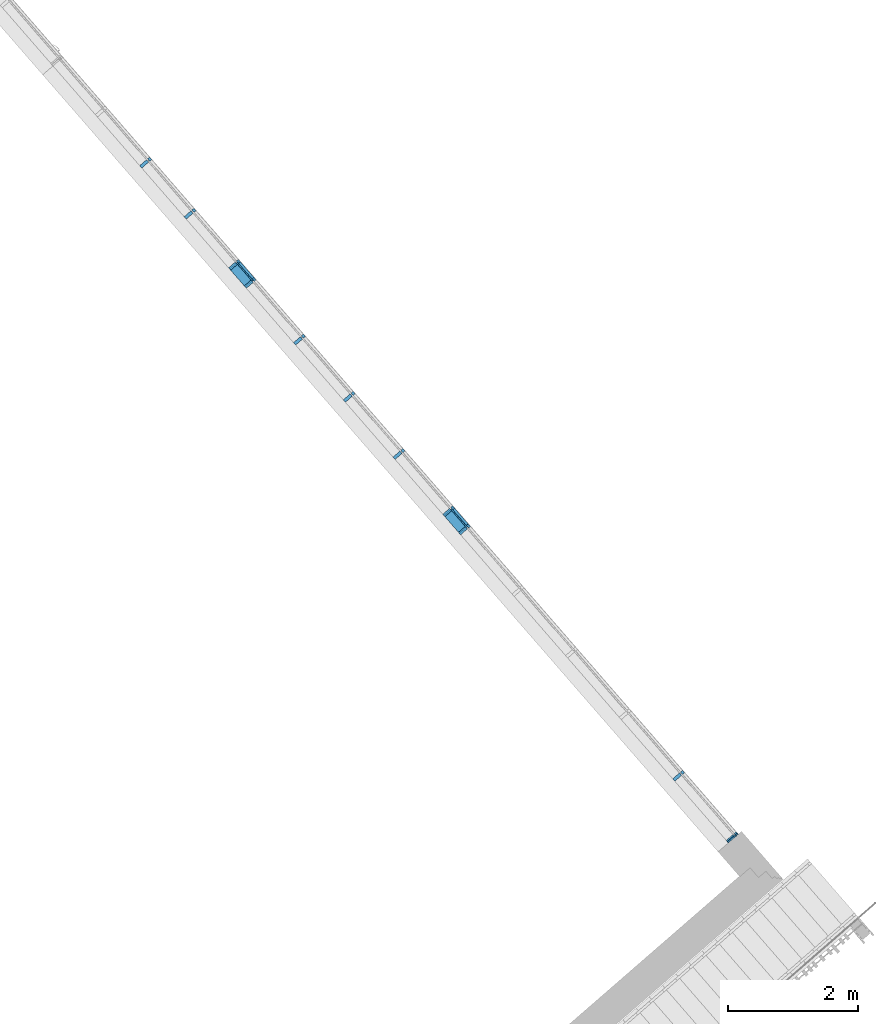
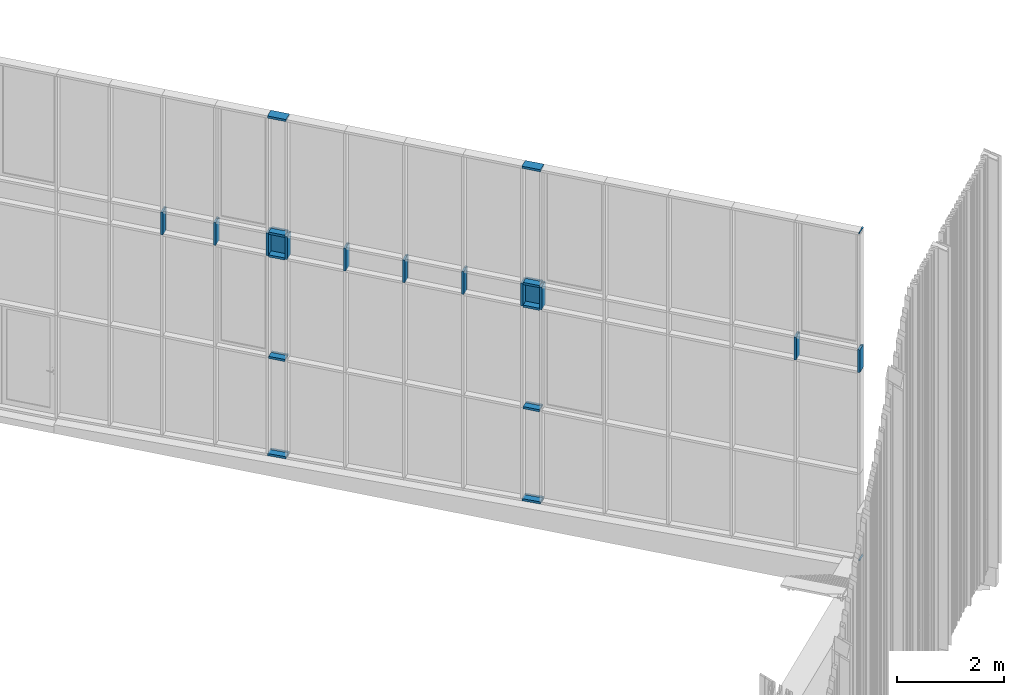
# One storey, part 68 of 390: 26 discrete accessories, 1 element without a shape of its own.
"""IFC2X3 building model written with IfcOpenShell, lengths in millimetres."""

from ifc_helpers import new_model, entity, si_unit, converted_unit, derived_unit, money_unit, direction, frame, origin_with_axes, place, context, subcontext, project, spatial, polyline, outline, extrude, clip, halfspace, material, material_list, type_object, element, aggregate, save


model = new_model("IFC2X3")

# Units and contexts
model_context = context("Model", 3, precision=1e-05, world=origin_with_axes(), true_north=direction((0.0, 1.0)))
body_context = subcontext(model_context, "Body", "Model", "MODEL_VIEW")
ifc_project = project(units=[si_unit("LENGTHUNIT", "METRE", prefix="MILLI"), si_unit("AREAUNIT", "SQUARE_METRE"), si_unit("VOLUMEUNIT", "CUBIC_METRE"), converted_unit("PLANEANGLEUNIT", "DEGREE", entity("IfcPlaneAngleMeasure", 0.0174532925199), si_unit("PLANEANGLEUNIT", "RADIAN"), dimensions=[0, 0, 0, 0, 0, 0, 0]), si_unit("SOLIDANGLEUNIT", "STERADIAN"), money_unit("EUR"), converted_unit("TIMEUNIT", "Year", entity("IfcTimeMeasure", 31556926.0), si_unit("TIMEUNIT", "SECOND"), dimensions=[0, 0, 1, 0, 0, 0, 0]), si_unit("MASSUNIT", "GRAM", prefix="KILO"), si_unit("THERMODYNAMICTEMPERATUREUNIT", "DEGREE_CELSIUS"), si_unit("LUMINOUSINTENSITYUNIT", "LUMEN"), si_unit("ENERGYUNIT", "JOULE", prefix="MEGA"), derived_unit("THERMALCONDUCTANCEUNIT", [(si_unit("POWERUNIT", "WATT"), 1), (si_unit("LENGTHUNIT", "METRE"), -1), (si_unit("THERMODYNAMICTEMPERATUREUNIT", "KELVIN"), -1)]), derived_unit("SPECIFICHEATCAPACITYUNIT", [(si_unit("ENERGYUNIT", "JOULE"), 1), (si_unit("MASSUNIT", "GRAM", prefix="KILO"), -1), (si_unit("THERMODYNAMICTEMPERATUREUNIT", "KELVIN"), -1)]), derived_unit("MASSDENSITYUNIT", [(si_unit("MASSUNIT", "GRAM", prefix="KILO"), 1), (si_unit("VOLUMEUNIT", "CUBIC_METRE"), -1)])], contexts=[model_context])

# Site, building, storey
site_placement = place(None, origin_with_axes())
site = spatial("IfcSite", under=ifc_project, at=site_placement, Name="Site", CompositionType="ELEMENT")
building_placement = place(site_placement, origin_with_axes())
building = spatial("IfcBuilding", under=site, at=building_placement, Name="Building", CompositionType="ELEMENT")
storey_placement = place(building_placement, origin_with_axes())
storey = spatial("IfcBuildingStorey", under=building, at=storey_placement, Name="1 korrus", CompositionType="ELEMENT", Elevation=0.0)

# Curtain wall, discrete accessories
curtain_wall_type = type_object("IfcCurtainWallType", Name="KLF-17", PredefinedType="NOTDEFINED")
curtain_wall_placement = place(storey_placement, frame((175630.823927, 104534.758561, -0.000216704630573), z_axis=(0.0, 0.0, 1.0), x_axis=(1.0, 0.0, 0.0)))
curtain_wall = element("IfcCurtainWall", 1, at=curtain_wall_placement, inside=storey, type_object=curtain_wall_type, Name="Klaasfassaad")
ifc_material_1 = material(Name="Klaas")
discrete_accessory_type_1 = type_object("IfcDiscreteAccessoryType", Name="370 x 520 x 20")
discrete_accessory_1_placement = place(curtain_wall_placement, frame((-1361.32248515, 1566.02237896, 4980.0002167), z_axis=(0.0, 0.0, 1.0), x_axis=(-0.65605902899, 0.754709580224, 0.0)))
discrete_accessory_1 = element("IfcDiscreteAccessory", 2, at=discrete_accessory_1_placement, type_object=discrete_accessory_type_1, material=ifc_material_1, Name="KLF-17 klaaspakett", context=body_context, shape_type="SweptSolid", body=[
    extrude(outline(polyline([(-185.000003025, -260.000003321), (184.99999934, -260.000003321), (184.99999934, 260.000003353), (-185.000003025, 260.000003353), (-185.000003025, -260.000003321)])), frame((0.0, -9.99999999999, 0.0), z_axis=(0.0, 1.0, 0.0), x_axis=(1.0, 0.0, 0.0)), (0.0, 0.0, 1.0), 20.0),
])
discrete_accessory_2_placement = place(curtain_wall_placement, frame((-4667.85999126, 5369.75866329, 4980.0002167), z_axis=(0.0, 0.0, 1.0), x_axis=(-0.65605902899, 0.754709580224, 0.0)))
discrete_accessory_2 = element("IfcDiscreteAccessory", 3, at=discrete_accessory_2_placement, type_object=discrete_accessory_type_1, material=ifc_material_1, Name="KLF-17 klaaspakett", context=body_context, shape_type="SweptSolid", body=[
    extrude(outline(polyline([(-185.000003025, -260.000003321), (184.99999934, -260.000003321), (184.99999934, 260.000003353), (-185.000003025, 260.000003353), (-185.000003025, -260.000003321)])), frame((0.0, -9.99999999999, 0.0), z_axis=(0.0, 1.0, 0.0), x_axis=(1.0, 0.0, 0.0)), (0.0, 0.0, 1.0), 20.0),
])
discrete_accessory_type_2 = type_object("IfcDiscreteAccessoryType", Name="50 x 200")
discrete_accessory_3_placement = place(curtain_wall_placement, frame((-1482.69340552, 1705.64365131, 7915.00660752), z_axis=(0.65605902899, -0.754709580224, 0.0), x_axis=(0.0, 0.0, 1.0)))
discrete_accessory_3 = element("IfcDiscreteAccessory", 4, at=discrete_accessory_3_placement, type_object=discrete_accessory_type_2, Name="KLF-17 profiil", context=body_context, shape_type="SweptSolid", body=[
    extrude(outline(polyline([(9.99999999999, 25.0), (-10.0, 25.0), (-10.0, 0.0), (9.99999999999, 0.0), (9.99999999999, 25.0)])), frame((0.0, 0.0, 0.0), z_axis=(0.0, 0.0, 1.0), x_axis=(0.0, 1.0, 0.0)), (0.0, 0.0, 1.0), 370.0),
    extrude(outline(polyline([(150.0, 50.0), (9.99999999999, 50.0), (9.99999999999, 0.0), (150.0, 0.0), (150.0, 50.0)])), frame((0.0, 0.0, 0.0), z_axis=(0.0, 0.0, 1.0), x_axis=(0.0, 1.0, 0.0)), (0.0, 0.0, 1.0), 370.0),
    extrude(outline(polyline([(-50.0, 0.0), (-10.0, 0.0), (-10.0, 50.0), (-50.0, 50.0), (-50.0, 0.0)])), frame((0.0, 0.0, 0.0), z_axis=(0.0, 0.0, 1.0), x_axis=(0.0, 1.0, 0.0)), (0.0, 0.0, 1.0), 370.0),
])
discrete_accessory_4_placement = place(curtain_wall_placement, frame((-4789.23091162, 5509.37993563, 7915.00660752), z_axis=(0.65605902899, -0.754709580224, 0.0), x_axis=(0.0, 0.0, 1.0)))
discrete_accessory_4 = element("IfcDiscreteAccessory", 5, at=discrete_accessory_4_placement, type_object=discrete_accessory_type_2, Name="KLF-17 profiil", context=body_context, shape_type="SweptSolid", body=[
    extrude(outline(polyline([(10.0, 25.0), (-9.99999999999, 25.0), (-9.99999999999, 0.0), (10.0, 0.0), (10.0, 25.0)])), frame((0.0, 0.0, 0.0), z_axis=(0.0, 0.0, 1.0), x_axis=(0.0, 1.0, 0.0)), (0.0, 0.0, 1.0), 370.0),
    extrude(outline(polyline([(150.0, 50.0), (10.0, 50.0), (10.0, 0.0), (150.0, 0.0), (150.0, 50.0)])), frame((0.0, 0.0, 0.0), z_axis=(0.0, 0.0, 1.0), x_axis=(0.0, 1.0, 0.0)), (0.0, 0.0, 1.0), 370.0),
    extrude(outline(polyline([(-50.0, 0.0), (-9.99999999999, 0.0), (-9.99999999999, 50.0), (-50.0, 50.0), (-50.0, 0.0)])), frame((0.0, 0.0, 0.0), z_axis=(0.0, 0.0, 1.0), x_axis=(0.0, 1.0, 0.0)), (0.0, 0.0, 1.0), 370.0),
])
ifc_material_2 = material(Name="Aluminium MUST")
ifc_material_list = material_list([ifc_material_2, ifc_material_2])
discrete_accessory_5_placement = place(curtain_wall_placement, frame((-1482.69340552, 1705.64365131, 5240.0002167), z_axis=(0.65605902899, -0.754709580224, 0.0), x_axis=(0.0, 0.0, 1.0)))
discrete_accessory_5 = element("IfcDiscreteAccessory", 6, at=discrete_accessory_5_placement, type_object=discrete_accessory_type_2, material=ifc_material_list, Name="KLF-17 profiil", context=body_context, shape_type="SweptSolid", body=[
    extrude(outline(polyline([(150.0, -25.0), (150.0, 25.0), (9.99999999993, 25.0), (9.99999999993, -25.0), (150.0, -25.0)])), frame((0.0, 0.0, 25.0), z_axis=(0.0, 0.0, 1.0), x_axis=(0.0, 1.0, 0.0)), (0.0, 0.0, 1.0), 320.0),
    extrude(outline(polyline([(-50.0, 25.0), (-50.0, -25.0), (-10.0, -25.0), (-10.0, 25.0), (-50.0, 25.0)])), frame((0.0, 0.0, 25.0), z_axis=(0.0, 0.0, 1.0), x_axis=(0.0, 1.0, 0.0)), (0.0, 0.0, 1.0), 320.0),
])
discrete_accessory_6_placement = place(curtain_wall_placement, frame((-4789.23091162, 5509.37993563, 5240.0002167), z_axis=(0.65605902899, -0.754709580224, 0.0), x_axis=(0.0, 0.0, 1.0)))
discrete_accessory_6 = element("IfcDiscreteAccessory", 7, at=discrete_accessory_6_placement, type_object=discrete_accessory_type_2, material=ifc_material_list, Name="KLF-17 profiil", context=body_context, shape_type="SweptSolid", body=[
    extrude(outline(polyline([(150.0, -25.0), (150.0, 25.0), (9.99999999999, 25.0), (9.99999999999, -25.0), (150.0, -25.0)])), frame((0.0, 0.0, 25.0), z_axis=(0.0, 0.0, 1.0), x_axis=(0.0, 1.0, 0.0)), (0.0, 0.0, 1.0), 320.0),
    extrude(outline(polyline([(-50.0, 25.0), (-50.0, -25.0), (-9.99999999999, -25.0), (-9.99999999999, 25.0), (-50.0, 25.0)])), frame((0.0, 0.0, 25.0), z_axis=(0.0, 0.0, 1.0), x_axis=(0.0, 1.0, 0.0)), (0.0, 0.0, 1.0), 320.0),
])
discrete_accessory_7_placement = place(curtain_wall_placement, frame((2893.22031784, -3328.26924879, 421.428411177), z_axis=(0.655880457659, -0.754504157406, 0.0233302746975), x_axis=(-0.0153060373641, 0.0176075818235, 0.999727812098)))
discrete_accessory_7 = element("IfcDiscreteAccessory", 8, at=discrete_accessory_7_placement, type_object=discrete_accessory_type_2, Name="KLF-17 profiil", context=body_context, shape_type="Clipping", body=[
    clip(extrude(outline(polyline([(10.0, -25.0), (10.0, 0.0), (-9.99999999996, 0.0), (-9.99999999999, -25.0), (10.0, -25.0)])), frame((0.0, 0.0, -4.36702052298e-05), z_axis=(0.0, 0.0, 1.0), x_axis=(0.0, 1.0, 0.0)), (0.0, 0.0, 1.0), 24.981860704), halfspace(frame((12.4875086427, 0.0, 12.7823248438), z_axis=(-0.698809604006, 0.0, -0.715307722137), x_axis=(0.0, 1.0, 0.0)), True)),
    clip(extrude(outline(polyline([(9.99999999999, -25.5716546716), (150.0, -25.5716546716), (150.0, 0.0), (10.0, 0.0), (9.99999999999, -25.5716546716)])), frame((0.0, 0.0, -4.36701910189e-05), z_axis=(0.0, 0.0, 1.0), x_axis=(0.0, 1.0, 0.0)), (0.0, 0.0, 1.0), 24.9818607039), halfspace(frame((12.4875086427, 0.0, 12.7823248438), z_axis=(-0.698809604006, 0.0, -0.715307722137), x_axis=(0.0, 1.0, 0.0)), True)),
    clip(extrude(outline(polyline([(-9.99999999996, -25.5716546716), (-9.99999999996, 0.0), (-50.0, 0.0), (-50.0, -25.5716546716), (-9.99999999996, -25.5716546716)])), frame((0.0, 0.0, -4.36701910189e-05), z_axis=(0.0, 0.0, 1.0), x_axis=(0.0, 1.0, 0.0)), (0.0, 0.0, 1.0), 24.9818607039), halfspace(frame((12.4875086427, 0.0, 12.7823248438), z_axis=(-0.698809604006, 0.0, -0.715307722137), x_axis=(0.0, 1.0, 0.0)), True)),
])
discrete_accessory_8_placement = place(curtain_wall_placement, frame((-4789.23091162, 5509.37993563, 148.137241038), z_axis=(0.655880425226, -0.754504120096, 0.0233323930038), x_axis=(-0.0153074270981, 0.0176091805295, 0.999727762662)))
discrete_accessory_8 = element("IfcDiscreteAccessory", 9, at=discrete_accessory_8_placement, type_object=discrete_accessory_type_2, Name="KLF-17 profiil", context=body_context, shape_type="SweptSolid", body=[
    extrude(outline(polyline([(9.99999999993, -25.0), (9.99999999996, 0.0), (-10.0, 0.0), (-9.99999999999, -25.0), (9.99999999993, -25.0)])), frame((0.0, 0.0, -1.76500698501e-05), z_axis=(0.0, 0.0, 1.0), x_axis=(0.0, 1.0, 0.0)), (0.0, 0.0, 1.0), 370.100787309),
    extrude(outline(polyline([(150.0, -50.0), (150.0, 0.0), (9.99999999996, 0.0), (9.99999999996, -50.0), (150.0, -50.0)])), frame((0.0, 0.0, -1.76500556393e-05), z_axis=(0.0, 0.0, 1.0), x_axis=(0.0, 1.0, 0.0)), (0.0, 0.0, 1.0), 370.100787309),
    extrude(outline(polyline([(-50.0, 0.0), (-50.0, -50.0), (-10.0, -50.0), (-10.0, 0.0), (-50.0, 0.0)])), frame((0.0, 0.0, -1.76500556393e-05), z_axis=(0.0, 0.0, 1.0), x_axis=(0.0, 1.0, 0.0)), (0.0, 0.0, 1.0), 370.100787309),
])
discrete_accessory_9_placement = place(curtain_wall_placement, frame((-1482.69340552, 1705.64365131, 2400.0002167), z_axis=(0.65605902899, -0.754709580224, 0.0), x_axis=(0.0, 0.0, 1.0)))
discrete_accessory_9 = element("IfcDiscreteAccessory", 10, at=discrete_accessory_9_placement, type_object=discrete_accessory_type_2, material=ifc_material_list, Name="KLF-17 profiil", context=body_context, shape_type="SweptSolid", body=[
    extrude(outline(polyline([(150.0, -25.0), (150.0, 25.0), (9.99999999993, 25.0), (9.99999999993, -25.0), (150.0, -25.0)])), frame((0.0, 0.0, 25.0), z_axis=(0.0, 0.0, 1.0), x_axis=(0.0, 1.0, 0.0)), (0.0, 0.0, 1.0), 320.0),
    extrude(outline(polyline([(-50.0, 25.0), (-50.0, -25.0), (-10.0, -25.0), (-10.0, 25.0), (-50.0, 25.0)])), frame((0.0, 0.0, 25.0), z_axis=(0.0, 0.0, 1.0), x_axis=(0.0, 1.0, 0.0)), (0.0, 0.0, 1.0), 320.0),
])
discrete_accessory_10_placement = place(curtain_wall_placement, frame((-4789.23091162, 5509.37993563, 2400.0002167), z_axis=(0.65605902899, -0.754709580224, 0.0), x_axis=(0.0, 0.0, 1.0)))
discrete_accessory_10 = element("IfcDiscreteAccessory", 11, at=discrete_accessory_10_placement, type_object=discrete_accessory_type_2, material=ifc_material_list, Name="KLF-17 profiil", context=body_context, shape_type="SweptSolid", body=[
    extrude(outline(polyline([(150.0, -25.0), (150.0, 25.0), (9.99999999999, 25.0), (9.99999999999, -25.0), (150.0, -25.0)])), frame((0.0, 0.0, 25.0), z_axis=(0.0, 0.0, 1.0), x_axis=(0.0, 1.0, 0.0)), (0.0, 0.0, 1.0), 320.0),
    extrude(outline(polyline([(-50.0, 25.0), (-50.0, -25.0), (-9.99999999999, -25.0), (-9.99999999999, 25.0), (-50.0, 25.0)])), frame((0.0, 0.0, 25.0), z_axis=(0.0, 0.0, 1.0), x_axis=(0.0, 1.0, 0.0)), (0.0, 0.0, 1.0), 320.0),
])
discrete_accessory_11_placement = place(curtain_wall_placement, frame((-1482.69340552, 1705.64365131, 4720.0002167), z_axis=(0.65605902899, -0.754709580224, 0.0), x_axis=(0.0, 0.0, 1.0)))
discrete_accessory_11 = element("IfcDiscreteAccessory", 12, at=discrete_accessory_11_placement, type_object=discrete_accessory_type_2, material=ifc_material_list, Name="KLF-17 profiil", context=body_context, shape_type="SweptSolid", body=[
    extrude(outline(polyline([(150.0, -25.0), (150.0, 25.0), (9.99999999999, 25.0), (9.99999999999, -25.0), (150.0, -25.0)])), frame((0.0, 0.0, 25.0), z_axis=(0.0, 0.0, 1.0), x_axis=(0.0, 1.0, 0.0)), (0.0, 0.0, 1.0), 320.0),
    extrude(outline(polyline([(-50.0000000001, 25.0), (-50.0000000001, -25.0), (-10.0, -25.0), (-10.0, 25.0), (-50.0000000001, 25.0)])), frame((0.0, 0.0, 25.0), z_axis=(0.0, 0.0, 1.0), x_axis=(0.0, 1.0, 0.0)), (0.0, 0.0, 1.0), 320.0),
])
discrete_accessory_12_placement = place(curtain_wall_placement, frame((-4789.23091162, 5509.37993563, 4720.0002167), z_axis=(0.65605902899, -0.754709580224, 0.0), x_axis=(0.0, 0.0, 1.0)))
discrete_accessory_12 = element("IfcDiscreteAccessory", 13, at=discrete_accessory_12_placement, type_object=discrete_accessory_type_2, material=ifc_material_list, Name="KLF-17 profiil", context=body_context, shape_type="SweptSolid", body=[
    extrude(outline(polyline([(150.0, -25.0), (150.0, 25.0), (9.99999999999, 25.0), (9.99999999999, -25.0), (150.0, -25.0)])), frame((0.0, 0.0, 25.0), z_axis=(0.0, 0.0, 1.0), x_axis=(0.0, 1.0, 0.0)), (0.0, 0.0, 1.0), 320.0),
    extrude(outline(polyline([(-50.0, 25.0), (-50.0, -25.0), (-9.99999999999, -25.0), (-9.99999999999, 25.0), (-50.0, 25.0)])), frame((0.0, 0.0, 25.0), z_axis=(0.0, 0.0, 1.0), x_axis=(0.0, 1.0, 0.0)), (0.0, 0.0, 1.0), 320.0),
])
discrete_accessory_13_placement = place(curtain_wall_placement, frame((-6160.39428221, 7086.7229583, 4720.0002167), z_axis=(0.0, 0.0, 1.0), x_axis=(-0.65605902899, 0.754709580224, 0.0)))
discrete_accessory_13 = element("IfcDiscreteAccessory", 14, at=discrete_accessory_13_placement, type_object=discrete_accessory_type_2, material=ifc_material_list, Name="KLF-17 profiil", context=body_context, shape_type="SweptSolid", body=[
    extrude(outline(polyline([(-129.607912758, -79.5411148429), (-96.8049613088, -117.276593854), (8.85437992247, -25.4283297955), (-23.948571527, 12.3071492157), (-129.607912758, -79.5411148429)])), frame((0.0, 0.0, 0.0), z_axis=(0.0, 0.0, 1.0), x_axis=(-0.65605902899, -0.754709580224, 0.0)), (0.0, 0.0, 1.0), 520.0),
    extrude(outline(polyline([(54.1369547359, 13.9352119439), (21.3340032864, 51.670690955), (-8.8543799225, 25.4283297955), (23.948571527, -12.3071492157), (54.1369547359, 13.9352119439)])), frame((0.0, 0.0, 0.0), z_axis=(0.0, 0.0, 1.0), x_axis=(-0.65605902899, -0.754709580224, 0.0)), (0.0, 0.0, 1.0), 520.0),
])
discrete_accessory_14_placement = place(curtain_wall_placement, frame((-5474.81259692, 6298.05144697, 4720.0002167), z_axis=(0.0, 0.0, 1.0), x_axis=(-0.65605902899, 0.754709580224, 0.0)))
discrete_accessory_14 = element("IfcDiscreteAccessory", 15, at=discrete_accessory_14_placement, type_object=discrete_accessory_type_2, material=ifc_material_list, Name="KLF-17 profiil", context=body_context, shape_type="SweptSolid", body=[
    extrude(outline(polyline([(-129.607912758, -79.5411148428), (-96.8049613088, -117.276593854), (8.8543799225, -25.4283297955), (-23.948571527, 12.3071492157), (-129.607912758, -79.5411148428)])), frame((0.0, 0.0, 0.0), z_axis=(0.0, 0.0, 1.0), x_axis=(-0.65605902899, -0.754709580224, 0.0)), (0.0, 0.0, 1.0), 520.0),
    extrude(outline(polyline([(54.1369547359, 13.9352119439), (21.3340032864, 51.6706909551), (-8.8543799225, 25.4283297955), (23.948571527, -12.3071492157), (54.1369547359, 13.9352119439)])), frame((0.0, 0.0, 0.0), z_axis=(0.0, 0.0, 1.0), x_axis=(-0.65605902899, -0.754709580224, 0.0)), (0.0, 0.0, 1.0), 520.0),
])
discrete_accessory_15_placement = place(curtain_wall_placement, frame((-4789.23091162, 5509.37993563, 4720.0002167), z_axis=(0.0, 0.0, 1.0), x_axis=(-0.65605902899, 0.754709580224, 0.0)))
discrete_accessory_15 = element("IfcDiscreteAccessory", 16, at=discrete_accessory_15_placement, type_object=discrete_accessory_type_2, material=ifc_material_list, Name="KLF-17 profiil", context=body_context, shape_type="SweptSolid", body=[
    extrude(outline(polyline([(-129.607912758, -79.5411148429), (-96.8049613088, -117.276593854), (8.8543799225, -25.4283297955), (-23.948571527, 12.3071492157), (-129.607912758, -79.5411148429)])), frame((0.0, 0.0, 0.0), z_axis=(0.0, 0.0, 1.0), x_axis=(-0.65605902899, -0.754709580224, 0.0)), (0.0, 0.0, 1.0), 520.0),
    extrude(outline(polyline([(54.1369547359, 13.9352119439), (21.3340032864, 51.6706909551), (-8.8543799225, 25.4283297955), (23.948571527, -12.3071492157), (54.1369547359, 13.9352119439)])), frame((0.0, 0.0, 0.0), z_axis=(0.0, 0.0, 1.0), x_axis=(-0.65605902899, -0.754709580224, 0.0)), (0.0, 0.0, 1.0), 520.0),
])
discrete_accessory_16_placement = place(curtain_wall_placement, frame((-4546.4890709, 5230.13739095, 4720.0002167), z_axis=(0.0, 0.0, 1.0), x_axis=(-0.65605902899, 0.754709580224, 0.0)))
discrete_accessory_16 = element("IfcDiscreteAccessory", 17, at=discrete_accessory_16_placement, type_object=discrete_accessory_type_2, material=ifc_material_list, Name="KLF-17 profiil", context=body_context, shape_type="SweptSolid", body=[
    extrude(outline(polyline([(-129.607912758, -79.5411148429), (-96.8049613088, -117.276593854), (8.85437992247, -25.4283297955), (-23.948571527, 12.3071492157), (-129.607912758, -79.5411148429)])), frame((0.0, 0.0, 0.0), z_axis=(0.0, 0.0, 1.0), x_axis=(-0.65605902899, -0.754709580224, 0.0)), (0.0, 0.0, 1.0), 520.0),
    extrude(outline(polyline([(54.1369547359, 13.9352119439), (21.3340032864, 51.6706909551), (-8.85437992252, 25.4283297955), (23.948571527, -12.3071492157), (54.1369547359, 13.9352119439)])), frame((0.0, 0.0, 0.0), z_axis=(0.0, 0.0, 1.0), x_axis=(-0.65605902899, -0.754709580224, 0.0)), (0.0, 0.0, 1.0), 520.0),
])
discrete_accessory_17_placement = place(curtain_wall_placement, frame((-3785.46059727, 4354.67427789, 4720.0002167), z_axis=(0.0, 0.0, 1.0), x_axis=(-0.65605902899, 0.754709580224, 0.0)))
discrete_accessory_17 = element("IfcDiscreteAccessory", 18, at=discrete_accessory_17_placement, type_object=discrete_accessory_type_2, material=ifc_material_list, Name="KLF-17 profiil", context=body_context, shape_type="SweptSolid", body=[
    extrude(outline(polyline([(-129.607912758, -79.5411148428), (-96.8049613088, -117.276593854), (8.8543799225, -25.4283297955), (-23.948571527, 12.3071492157), (-129.607912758, -79.5411148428)])), frame((0.0, 0.0, 0.0), z_axis=(0.0, 0.0, 1.0), x_axis=(-0.65605902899, -0.754709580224, 0.0)), (0.0, 0.0, 1.0), 520.0),
    extrude(outline(polyline([(54.1369547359, 13.9352119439), (21.3340032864, 51.670690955), (-8.8543799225, 25.4283297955), (23.9485715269, -12.3071492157), (54.1369547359, 13.9352119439)])), frame((0.0, 0.0, 0.0), z_axis=(0.0, 0.0, 1.0), x_axis=(-0.65605902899, -0.754709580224, 0.0)), (0.0, 0.0, 1.0), 520.0),
])
discrete_accessory_18_placement = place(curtain_wall_placement, frame((-3017.87153335, 3471.66406903, 4720.0002167), z_axis=(0.0, 0.0, 1.0), x_axis=(-0.65605902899, 0.754709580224, 0.0)))
discrete_accessory_18 = element("IfcDiscreteAccessory", 19, at=discrete_accessory_18_placement, type_object=discrete_accessory_type_2, material=ifc_material_list, Name="KLF-17 profiil", context=body_context, shape_type="SweptSolid", body=[
    extrude(outline(polyline([(-129.607912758, -79.5411148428), (-96.8049613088, -117.276593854), (8.8543799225, -25.4283297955), (-23.9485715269, 12.3071492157), (-129.607912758, -79.5411148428)])), frame((0.0, 0.0, 0.0), z_axis=(0.0, 0.0, 1.0), x_axis=(-0.65605902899, -0.754709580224, 0.0)), (0.0, 0.0, 1.0), 520.0),
    extrude(outline(polyline([(54.1369547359, 13.9352119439), (21.3340032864, 51.6706909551), (-8.8543799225, 25.4283297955), (23.948571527, -12.3071492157), (54.1369547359, 13.9352119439)])), frame((0.0, 0.0, 0.0), z_axis=(0.0, 0.0, 1.0), x_axis=(-0.65605902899, -0.754709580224, 0.0)), (0.0, 0.0, 1.0), 520.0),
])
discrete_accessory_19_placement = place(curtain_wall_placement, frame((-2250.28246943, 2588.65386017, 4720.0002167), z_axis=(0.0, 0.0, 1.0), x_axis=(-0.65605902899, 0.754709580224, 0.0)))
discrete_accessory_19 = element("IfcDiscreteAccessory", 20, at=discrete_accessory_19_placement, type_object=discrete_accessory_type_2, material=ifc_material_list, Name="KLF-17 profiil", context=body_context, shape_type="SweptSolid", body=[
    extrude(outline(polyline([(-129.607912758, -79.5411148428), (-96.8049613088, -117.276593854), (8.8543799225, -25.4283297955), (-23.9485715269, 12.3071492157), (-129.607912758, -79.5411148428)])), frame((0.0, 0.0, 0.0), z_axis=(0.0, 0.0, 1.0), x_axis=(-0.65605902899, -0.754709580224, 0.0)), (0.0, 0.0, 1.0), 520.0),
    extrude(outline(polyline([(54.1369547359, 13.9352119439), (21.3340032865, 51.6706909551), (-8.8543799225, 25.4283297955), (23.948571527, -12.3071492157), (54.1369547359, 13.9352119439)])), frame((0.0, 0.0, 0.0), z_axis=(0.0, 0.0, 1.0), x_axis=(-0.65605902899, -0.754709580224, 0.0)), (0.0, 0.0, 1.0), 520.0),
])
discrete_accessory_20_placement = place(curtain_wall_placement, frame((-1482.69340552, 1705.64365131, 4720.0002167), z_axis=(0.0, 0.0, 1.0), x_axis=(-0.65605902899, 0.754709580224, 0.0)))
discrete_accessory_20 = element("IfcDiscreteAccessory", 21, at=discrete_accessory_20_placement, type_object=discrete_accessory_type_2, material=ifc_material_list, Name="KLF-17 profiil", context=body_context, shape_type="SweptSolid", body=[
    extrude(outline(polyline([(-129.607912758, -79.5411148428), (-96.8049613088, -117.276593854), (8.85437992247, -25.4283297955), (-23.948571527, 12.3071492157), (-129.607912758, -79.5411148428)])), frame((0.0, 0.0, 0.0), z_axis=(0.0, 0.0, 1.0), x_axis=(-0.65605902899, -0.754709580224, 0.0)), (0.0, 0.0, 1.0), 520.0),
    extrude(outline(polyline([(54.1369547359, 13.9352119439), (21.3340032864, 51.6706909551), (-8.85437992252, 25.4283297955), (23.948571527, -12.3071492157), (54.1369547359, 13.9352119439)])), frame((0.0, 0.0, 0.0), z_axis=(0.0, 0.0, 1.0), x_axis=(-0.65605902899, -0.754709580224, 0.0)), (0.0, 0.0, 1.0), 520.0),
])
discrete_accessory_21_placement = place(curtain_wall_placement, frame((-1239.95156479, 1426.40110662, 4720.0002167), z_axis=(0.0, 0.0, 1.0), x_axis=(-0.65605902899, 0.754709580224, 0.0)))
discrete_accessory_21 = element("IfcDiscreteAccessory", 22, at=discrete_accessory_21_placement, type_object=discrete_accessory_type_2, material=ifc_material_list, Name="KLF-17 profiil", context=body_context, shape_type="SweptSolid", body=[
    extrude(outline(polyline([(-129.607912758, -79.5411148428), (-96.8049613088, -117.276593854), (8.8543799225, -25.4283297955), (-23.948571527, 12.3071492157), (-129.607912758, -79.5411148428)])), frame((0.0, 0.0, 0.0), z_axis=(0.0, 0.0, 1.0), x_axis=(-0.65605902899, -0.754709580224, 0.0)), (0.0, 0.0, 1.0), 520.0),
    extrude(outline(polyline([(54.1369547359, 13.9352119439), (21.3340032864, 51.670690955), (-8.8543799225, 25.4283297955), (23.948571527, -12.3071492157), (54.1369547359, 13.9352119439)])), frame((0.0, 0.0, 0.0), z_axis=(0.0, 0.0, 1.0), x_axis=(-0.65605902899, -0.754709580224, 0.0)), (0.0, 0.0, 1.0), 520.0),
])
discrete_accessory_22_placement = place(curtain_wall_placement, frame((2066.58594132, -2377.3351777, 4720.0002167), z_axis=(0.0, 0.0, 1.0), x_axis=(-0.65605902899, 0.754709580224, 0.0)))
discrete_accessory_22 = element("IfcDiscreteAccessory", 23, at=discrete_accessory_22_placement, type_object=discrete_accessory_type_2, material=ifc_material_list, Name="KLF-17 profiil", context=body_context, shape_type="SweptSolid", body=[
    extrude(outline(polyline([(-129.607912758, -79.5411148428), (-96.8049613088, -117.276593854), (8.8543799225, -25.4283297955), (-23.948571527, 12.3071492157), (-129.607912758, -79.5411148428)])), frame((0.0, 0.0, 0.0), z_axis=(0.0, 0.0, 1.0), x_axis=(-0.65605902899, -0.754709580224, 0.0)), (0.0, 0.0, 1.0), 520.0),
    extrude(outline(polyline([(54.1369547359, 13.9352119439), (21.3340032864, 51.6706909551), (-8.8543799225, 25.4283297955), (23.948571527, -12.3071492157), (54.1369547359, 13.9352119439)])), frame((0.0, 0.0, 0.0), z_axis=(0.0, 0.0, 1.0), x_axis=(-0.65605902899, -0.754709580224, 0.0)), (0.0, 0.0, 1.0), 520.0),
])
discrete_accessory_23_placement = place(curtain_wall_placement, frame((2909.60540343, -3347.1181336, 4720.0002167), z_axis=(0.0, 0.0, 1.0), x_axis=(-0.65605902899, 0.754709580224, 0.0)))
discrete_accessory_23 = element("IfcDiscreteAccessory", 24, at=discrete_accessory_23_placement, type_object=discrete_accessory_type_2, Name="KLF-17 profiil", context=body_context, shape_type="SweptSolid", body=[
    extrude(outline(polyline([(-23.948571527, 12.3071492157), (-7.54709580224, -6.56059028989), (7.54709580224, 6.56059028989), (-8.8543799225, 25.4283297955), (-23.948571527, 12.3071492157)])), frame((0.0, 0.0, 0.0), z_axis=(0.0, 0.0, 1.0), x_axis=(-0.65605902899, -0.754709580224, 0.0)), (0.0, 0.0, 1.0), 520.0),
    extrude(outline(polyline([(-146.009388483, -60.6733753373), (-113.206437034, -98.4088543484), (-7.54709580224, -6.56059028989), (-40.3500472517, 31.1748887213), (-146.009388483, -60.6733753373)])), frame((0.0, 0.0, 0.0), z_axis=(0.0, 0.0, 1.0), x_axis=(-0.65605902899, -0.754709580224, 0.0)), (0.0, 0.0, 1.0), 520.0),
    extrude(outline(polyline([(37.7354790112, 32.8029514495), (4.93252756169, 70.5384304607), (-25.2558556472, 44.2960693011), (7.54709580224, 6.56059028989), (37.7354790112, 32.8029514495)])), frame((0.0, 0.0, 0.0), z_axis=(0.0, 0.0, 1.0), x_axis=(-0.65605902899, -0.754709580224, 0.0)), (0.0, 0.0, 1.0), 520.0),
])
discrete_accessory_24_placement = place(curtain_wall_placement, frame((2893.22031784, -3328.26924879, 4720.0002167), z_axis=(0.0, 0.0, 1.0), x_axis=(-0.65605902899, 0.754709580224, 0.0)))
discrete_accessory_24 = element("IfcDiscreteAccessory", 25, at=discrete_accessory_24_placement, type_object=discrete_accessory_type_2, material=ifc_material_list, Name="KLF-17 profiil", context=body_context, shape_type="SweptSolid", body=[
    extrude(outline(polyline([(-129.607912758, -79.5411148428), (-96.8049613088, -117.276593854), (8.8543799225, -25.4283297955), (-23.948571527, 12.3071492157), (-129.607912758, -79.5411148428)])), frame((0.0, 0.0, 0.0), z_axis=(0.0, 0.0, 1.0), x_axis=(-0.65605902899, -0.754709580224, 0.0)), (0.0, 0.0, 1.0), 520.0),
    extrude(outline(polyline([(54.1369547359, 13.9352119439), (21.3340032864, 51.670690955), (-8.85437992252, 25.4283297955), (23.948571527, -12.3071492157), (54.1369547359, 13.9352119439)])), frame((0.0, 0.0, 0.0), z_axis=(0.0, 0.0, 1.0), x_axis=(-0.65605902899, -0.754709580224, 0.0)), (0.0, 0.0, 1.0), 520.0),
])
discrete_accessory_25_placement = place(curtain_wall_placement, frame((2893.22031784, -3328.26924879, 7915.00660752), z_axis=(0.65605902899, -0.754709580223, 0.0), x_axis=(0.0, 0.0, 1.0)))
discrete_accessory_25 = element("IfcDiscreteAccessory", 26, at=discrete_accessory_25_placement, type_object=discrete_accessory_type_2, Name="KLF-17 profiil", context=body_context, shape_type="Clipping", body=[
    clip(extrude(outline(polyline([(-9.99999999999, 24.9750172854), (-9.99999999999, 0.0), (9.99999999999, 0.0), (9.99999999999, 24.9750172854), (-9.99999999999, 24.9750172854)])), frame((0.0, 0.0, 0.0), z_axis=(0.0, 0.0, 1.0), x_axis=(0.0, 1.0, 0.0)), (0.0, 0.0, 1.0), 24.9750172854), halfspace(frame((-12.4875086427, 0.0, 12.4875086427), z_axis=(0.707106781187, 0.0, -0.707106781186), x_axis=(0.0, 1.0, 0.0)), True)),
    clip(extrude(outline(polyline([(9.99999999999, 24.9750172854), (9.99999999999, 0.0), (150.0, 0.0), (150.0, 24.9750172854), (9.99999999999, 24.9750172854)])), frame((0.0, 0.0, 0.0), z_axis=(0.0, 0.0, 1.0), x_axis=(0.0, 1.0, 0.0)), (0.0, 0.0, 1.0), 24.9750172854), halfspace(frame((-12.4875086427, 0.0, 12.4875086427), z_axis=(0.707106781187, 0.0, -0.707106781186), x_axis=(0.0, 1.0, 0.0)), True)),
    clip(extrude(outline(polyline([(-9.99999999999, 24.9750172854), (-50.0, 24.9750172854), (-50.0, 0.0), (-9.99999999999, 0.0), (-9.99999999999, 24.9750172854)])), frame((0.0, 0.0, 0.0), z_axis=(0.0, 0.0, 1.0), x_axis=(0.0, 1.0, 0.0)), (0.0, 0.0, 1.0), 24.9750172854), halfspace(frame((-12.4875086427, 0.0, 12.4875086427), z_axis=(0.707106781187, 0.0, -0.707106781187), x_axis=(0.0, 1.0, 0.0)), True)),
])
discrete_accessory_26_placement = place(curtain_wall_placement, frame((-1482.69340552, 1705.64365131, 265.762109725), z_axis=(0.65588043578, -0.754504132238, 0.0233317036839), x_axis=(-0.0153069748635, 0.0176086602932, 0.999727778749)))
discrete_accessory_26 = element("IfcDiscreteAccessory", 27, at=discrete_accessory_26_placement, type_object=discrete_accessory_type_2, Name="KLF-17 profiil", context=body_context, shape_type="SweptSolid", body=[
    extrude(outline(polyline([(9.99999999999, -25.0), (9.99999999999, 0.0), (-9.99999999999, 0.0), (-10.0000000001, -25.0), (9.99999999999, -25.0)])), frame((0.0, 0.0, -6.62987531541e-06), z_axis=(0.0, 0.0, 1.0), x_axis=(0.0, 1.0, 0.0)), (0.0, 0.0, 1.0), 370.100763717),
    extrude(outline(polyline([(150.0, -50.0), (150.0, 0.0), (9.99999999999, 0.0), (9.99999999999, -50.0), (150.0, -50.0)])), frame((0.0, 0.0, -6.62987531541e-06), z_axis=(0.0, 0.0, 1.0), x_axis=(0.0, 1.0, 0.0)), (0.0, 0.0, 1.0), 370.100763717),
    extrude(outline(polyline([(-50.0, 0.0), (-50.0, -50.0), (-10.0000000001, -50.0), (-9.99999999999, 0.0), (-50.0, 0.0)])), frame((0.0, 0.0, -6.62987531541e-06), z_axis=(0.0, 0.0, 1.0), x_axis=(0.0, 1.0, 0.0)), (0.0, 0.0, 1.0), 370.100763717),
])
aggregate(curtain_wall, [discrete_accessory_1, discrete_accessory_2, discrete_accessory_3, discrete_accessory_4, discrete_accessory_5, discrete_accessory_6, discrete_accessory_7, discrete_accessory_8, discrete_accessory_9, discrete_accessory_10, discrete_accessory_11, discrete_accessory_12, discrete_accessory_13, discrete_accessory_14, discrete_accessory_15, discrete_accessory_16, discrete_accessory_17, discrete_accessory_18, discrete_accessory_19, discrete_accessory_20, discrete_accessory_21, discrete_accessory_22, discrete_accessory_23, discrete_accessory_24, discrete_accessory_25, discrete_accessory_26])

save(model, "model.ifc")
